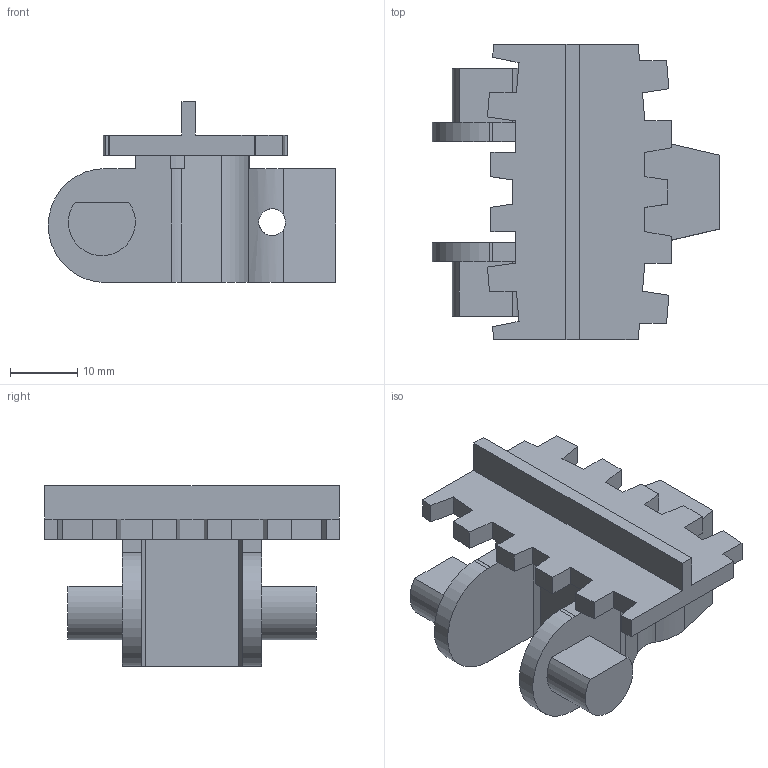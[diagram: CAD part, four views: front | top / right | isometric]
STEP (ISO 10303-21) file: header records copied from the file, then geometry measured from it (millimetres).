
FILE_DESCRIPTION (( 'STEP AP214' ), '1' );
FILE_NAME ('FKTF 5x5.5G-P.STEP', '2011-09-28T07:18:34', ( '.' ), ( '' ), 'SwSTEP 2.0', 'SolidWorks 2010', '' );
FILE_SCHEMA (( 'AUTOMOTIVE_DESIGN' ));
Length unit declared in the file: millimetre
Products named in the file (1): FKTF 5x5.5G-P
Bounding box: 42.9 x 44 x 27 mm (x, y, z)
Volume: 12274.8 mm3; surface area: 6880.6 mm2
Topology: 1 solids, 1 shells, 96 faces, 279 edges, 186 vertices
Faces by surface type: plane 79, cylinder 17
Entity records: 3253 total; most frequent: CARTESIAN_POINT 660, ORIENTED_EDGE 558, DIRECTION 497, EDGE_CURVE 279, LINE 239, VECTOR 239, VERTEX_POINT 186, AXIS2_PLACEMENT_3D 129
